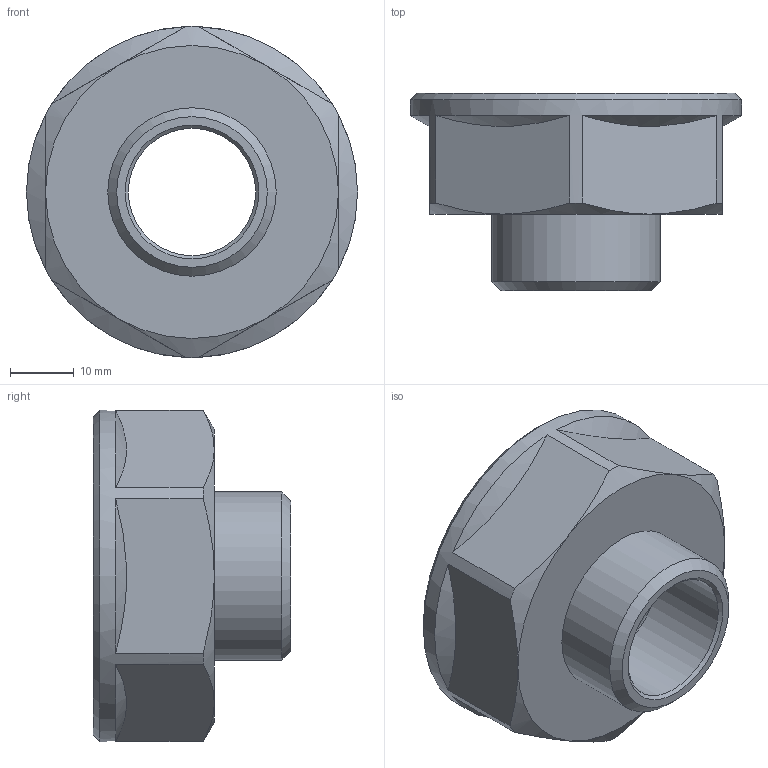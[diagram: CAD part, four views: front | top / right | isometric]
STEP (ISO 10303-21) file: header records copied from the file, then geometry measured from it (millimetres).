
FILE_DESCRIPTION(('STEP AP203'), '1');
FILE_NAME('ﾂﾐ.753138.011 - VTr.592.N.0705 ﾏ褞襄. G1 1-4xG3-4', '2024-07-08T09:37:54', ('Boss'), (''), 'C3D Converter', 'C3D Toolkit', '');
FILE_SCHEMA(('CONFIG_CONTROL_DESIGN'));
Length unit declared in the file: millimetre
Products named in the file (1): ВР.753138.011
Bounding box: 52 x 31 x 52 mm (x, y, z)
Volume: 18311.7 mm3; surface area: 9990.9 mm2
Topology: 1 solids, 1 shells, 31 faces, 70 edges, 43 vertices
Faces by surface type: cone 16, plane 10, cylinder 4, torus 1
Full cylindrical faces by diameter (mm): 20 x1, 26.441 x1, 38.953 x1, 52 x1
Entity records: 1440 total; most frequent: CARTESIAN_POINT 755, DIRECTION 138, ORIENTED_EDGE 122, AXIS2_PLACEMENT_3D 63, EDGE_CURVE 61, EDGE_LOOP 44, VERTEX_POINT 43, ADVANCED_FACE 31
